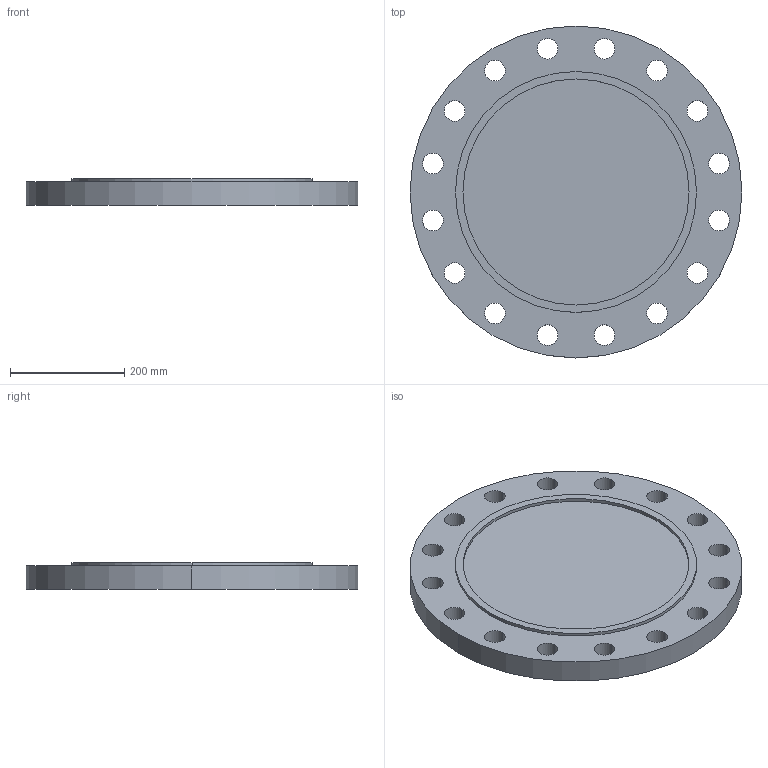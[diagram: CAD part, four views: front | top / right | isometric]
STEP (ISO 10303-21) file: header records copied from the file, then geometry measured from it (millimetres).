
FILE_DESCRIPTION (( 'STEP AP214' ), '1' );
FILE_NAME ('PN40 DN350 Type 05 - Type C Face.STEP', '2019-01-05T21:56:17', ( '' ), ( '' ), 'SwSTEP 2.0', 'SolidWorks 2019', '' );
FILE_SCHEMA (( 'AUTOMOTIVE_DESIGN' ));
Length unit declared in the file: millimetre
Products named in the file (1): PN40 DN350 Type 05 - Type C Face
Bounding box: 580 x 580 x 46 mm (x, y, z)
Volume: 10132484.5 mm3; surface area: 657026.4 mm2
Topology: 1 solids, 1 shells, 42 faces, 114 edges, 76 vertices
Faces by surface type: cylinder 38, plane 4
Entity records: 1472 total; most frequent: DIRECTION 276, CARTESIAN_POINT 233, ORIENTED_EDGE 228, AXIS2_PLACEMENT_3D 119, EDGE_CURVE 114, CIRCLE 76, EDGE_LOOP 76, VERTEX_POINT 76
